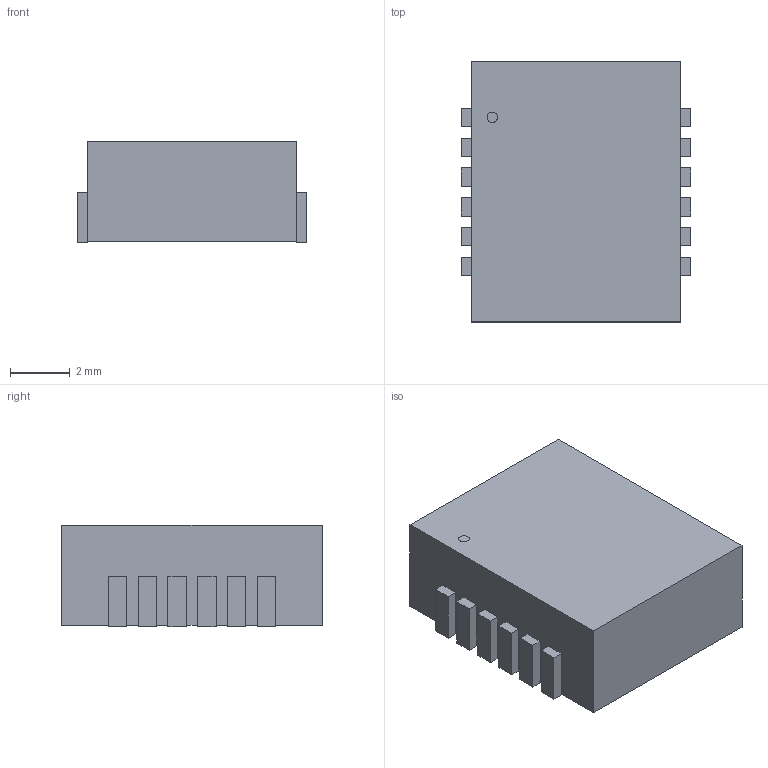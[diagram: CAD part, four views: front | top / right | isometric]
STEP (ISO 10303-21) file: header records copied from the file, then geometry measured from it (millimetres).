
FILE_DESCRIPTION(('STEP AP214'),'1');
FILE_NAME('SCL3300-D01-10_MUR','2026-03-20T04:08:48',(''),(''),'','','');
FILE_SCHEMA(('AUTOMOTIVE_DESIGN'));
Length unit declared in the file: millimetre
Products named in the file (1): product
Bounding box: 7.7 x 8.71 x 3.41 mm (x, y, z)
Volume: 209 mm3; surface area: 271.9 mm2
Topology: 14 solids, 14 shells, 105 faces, 231 edges, 154 vertices
Faces by surface type: plane 104, cylinder 1
Full cylindrical faces by diameter (mm): 0.351 x1
Entity records: 2845 total; most frequent: ORIENTED_EDGE 460, DIRECTION 446, CARTESIAN_POINT 263, EDGE_CURVE 230, LINE 228, VECTOR 228, VERTEX_POINT 154, AXIS2_PLACEMENT_3D 109
